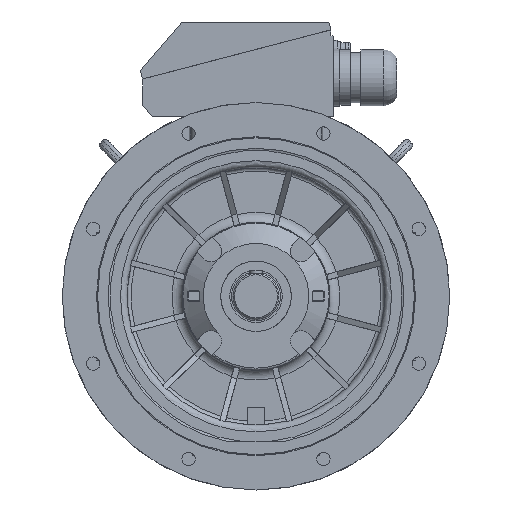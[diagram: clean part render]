
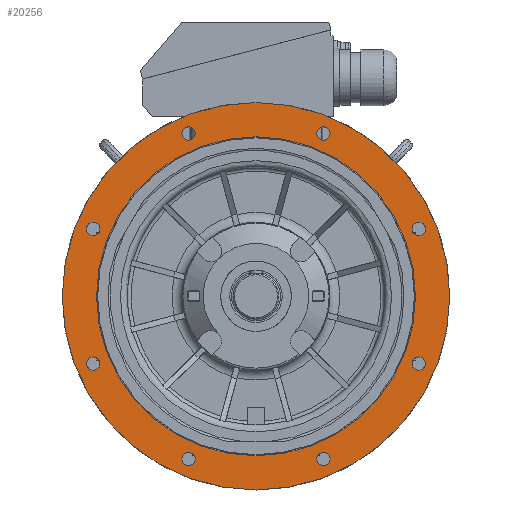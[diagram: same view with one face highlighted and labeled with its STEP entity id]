
A CAD part, front view. The second image highlights one B-rep face of the part: STEP entity #20256.
In plain terms, the highlighted planar face has unit normal (0, -1, 0).
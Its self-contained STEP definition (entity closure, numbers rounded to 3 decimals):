
#529=PLANE('',#21456);
#6868=ORIENTED_EDGE('',*,*,#9659,.T.);
#6869=ORIENTED_EDGE('',*,*,#9655,.F.);
#6870=ORIENTED_EDGE('',*,*,#9656,.F.);
#6871=ORIENTED_EDGE('',*,*,#9654,.F.);
#6872=ORIENTED_EDGE('',*,*,#9652,.F.);
#6873=ORIENTED_EDGE('',*,*,#9660,.F.);
#6874=ORIENTED_EDGE('',*,*,#9661,.F.);
#6875=ORIENTED_EDGE('',*,*,#9662,.F.);
#6876=ORIENTED_EDGE('',*,*,#9663,.F.);
#6877=ORIENTED_EDGE('',*,*,#9664,.F.);
#9652=EDGE_CURVE('',#11267,#11267,#11868,.T.);
#9654=EDGE_CURVE('',#11269,#11269,#11870,.T.);
#9655=EDGE_CURVE('',#11270,#11270,#11871,.T.);
#9656=EDGE_CURVE('',#11271,#11271,#11872,.T.);
#9659=EDGE_CURVE('',#11272,#11272,#11873,.T.);
#9660=EDGE_CURVE('',#11273,#11273,#11874,.T.);
#9661=EDGE_CURVE('',#11274,#11274,#11875,.T.);
#9662=EDGE_CURVE('',#11275,#11275,#11876,.T.);
#9663=EDGE_CURVE('',#11276,#11276,#11877,.T.);
#9664=EDGE_CURVE('',#11277,#11277,#11878,.T.);
#11267=VERTEX_POINT('',#30338);
#11269=VERTEX_POINT('',#30343);
#11270=VERTEX_POINT('',#30346);
#11271=VERTEX_POINT('',#30349);
#11272=VERTEX_POINT('',#30355);
#11273=VERTEX_POINT('',#30357);
#11274=VERTEX_POINT('',#30359);
#11275=VERTEX_POINT('',#30361);
#11276=VERTEX_POINT('',#30363);
#11277=VERTEX_POINT('',#30365);
#11868=CIRCLE('',#21447,9.5);
#11870=CIRCLE('',#21450,9.5);
#11871=CIRCLE('',#21452,226.4);
#11872=CIRCLE('',#21454,9.5);
#11873=CIRCLE('',#21457,275.);
#11874=CIRCLE('',#21458,9.5);
#11875=CIRCLE('',#21459,9.5);
#11876=CIRCLE('',#21460,9.5);
#11877=CIRCLE('',#21461,9.5);
#11878=CIRCLE('',#21462,9.5);
#12633=EDGE_LOOP('',(#6868));
#12634=EDGE_LOOP('',(#6869));
#12635=EDGE_LOOP('',(#6870));
#12636=EDGE_LOOP('',(#6871));
#12637=EDGE_LOOP('',(#6872));
#12638=EDGE_LOOP('',(#6873));
#12639=EDGE_LOOP('',(#6874));
#12640=EDGE_LOOP('',(#6875));
#12641=EDGE_LOOP('',(#6876));
#12642=EDGE_LOOP('',(#6877));
#13569=FACE_BOUND('',#12633,.T.);
#13570=FACE_BOUND('',#12634,.T.);
#13571=FACE_BOUND('',#12635,.T.);
#13572=FACE_BOUND('',#12636,.T.);
#13573=FACE_BOUND('',#12637,.T.);
#13574=FACE_BOUND('',#12638,.T.);
#13575=FACE_BOUND('',#12639,.T.);
#13576=FACE_BOUND('',#12640,.T.);
#13577=FACE_BOUND('',#12641,.T.);
#13578=FACE_BOUND('',#12642,.T.);
#20256=ADVANCED_FACE('',(#13569,#13570,#13571,#13572,#13573,#13574,#13575,
#13576,#13577,#13578),#529,.F.);
#21447=AXIS2_PLACEMENT_3D('',#30337,#24912,#24913);
#21450=AXIS2_PLACEMENT_3D('',#30342,#24918,#24919);
#21452=AXIS2_PLACEMENT_3D('',#30345,#24922,#24923);
#21454=AXIS2_PLACEMENT_3D('',#30348,#24926,#24927);
#21456=AXIS2_PLACEMENT_3D('',#30353,#24932,#24933);
#21457=AXIS2_PLACEMENT_3D('',#30354,#24934,#24935);
#21458=AXIS2_PLACEMENT_3D('',#30356,#24936,#24937);
#21459=AXIS2_PLACEMENT_3D('',#30358,#24938,#24939);
#21460=AXIS2_PLACEMENT_3D('',#30360,#24940,#24941);
#21461=AXIS2_PLACEMENT_3D('',#30362,#24942,#24943);
#21462=AXIS2_PLACEMENT_3D('',#30364,#24944,#24945);
#24912=DIRECTION('',(0.,-1.,0.));
#24913=DIRECTION('',(0.,0.,1.));
#24918=DIRECTION('',(0.,-1.,0.));
#24919=DIRECTION('',(0.,0.,1.));
#24922=DIRECTION('',(0.,-1.,0.));
#24923=DIRECTION('',(-1.,0.,0.));
#24926=DIRECTION('',(0.,-1.,0.));
#24927=DIRECTION('',(0.,0.,1.));
#24932=DIRECTION('',(0.,1.,0.));
#24933=DIRECTION('',(1.,0.,0.));
#24934=DIRECTION('',(0.,-1.,0.));
#24935=DIRECTION('',(-1.,0.,0.));
#24936=DIRECTION('',(0.,-1.,0.));
#24937=DIRECTION('',(0.,0.,1.));
#24938=DIRECTION('',(0.,-1.,0.));
#24939=DIRECTION('',(0.,0.,1.));
#24940=DIRECTION('',(0.,-1.,0.));
#24941=DIRECTION('',(0.,0.,1.));
#24942=DIRECTION('',(0.,-1.,0.));
#24943=DIRECTION('',(0.,0.,1.));
#24944=DIRECTION('',(0.,-1.,0.));
#24945=DIRECTION('',(0.,0.,1.));
#30337=CARTESIAN_POINT('',(95.671,-89.997,-230.97));
#30338=CARTESIAN_POINT('',(95.671,-89.997,-221.47));
#30342=CARTESIAN_POINT('',(-95.671,-89.997,-230.97));
#30343=CARTESIAN_POINT('',(-95.671,-89.997,-221.47));
#30345=CARTESIAN_POINT('',(0.,-89.997,0.));
#30346=CARTESIAN_POINT('',(-226.4,-89.997,0.));
#30348=CARTESIAN_POINT('',(-230.97,-89.997,-95.671));
#30349=CARTESIAN_POINT('',(-230.97,-89.997,-86.171));
#30353=CARTESIAN_POINT('',(226.4,-89.997,0.));
#30354=CARTESIAN_POINT('',(0.,-89.997,0.));
#30355=CARTESIAN_POINT('',(-275.,-89.997,0.));
#30356=CARTESIAN_POINT('',(230.97,-89.997,-95.671));
#30357=CARTESIAN_POINT('',(230.97,-89.997,-86.171));
#30358=CARTESIAN_POINT('',(-95.671,-89.997,230.97));
#30359=CARTESIAN_POINT('',(-95.671,-89.997,240.47));
#30360=CARTESIAN_POINT('',(95.671,-89.997,230.97));
#30361=CARTESIAN_POINT('',(95.671,-89.997,240.47));
#30362=CARTESIAN_POINT('',(230.97,-89.997,95.671));
#30363=CARTESIAN_POINT('',(230.97,-89.997,105.171));
#30364=CARTESIAN_POINT('',(-230.97,-89.997,95.671));
#30365=CARTESIAN_POINT('',(-230.97,-89.997,105.171));
